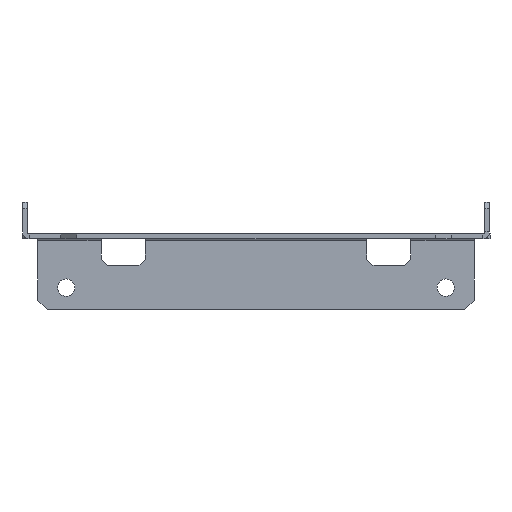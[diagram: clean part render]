
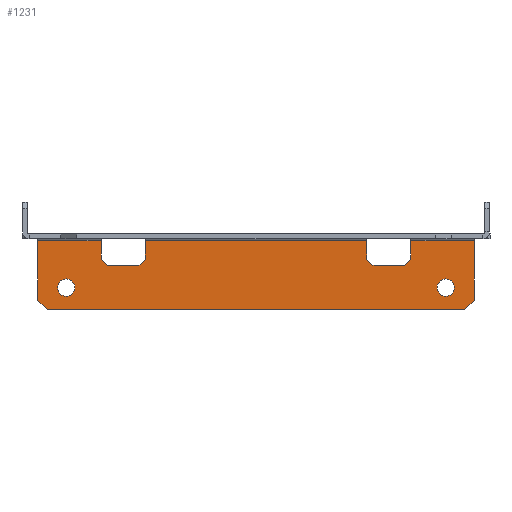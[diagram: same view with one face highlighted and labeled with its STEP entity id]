
A CAD part, front view. The second image highlights one B-rep face of the part: STEP entity #1231.
In plain terms, the highlighted planar face has unit normal (0, -1, 0).
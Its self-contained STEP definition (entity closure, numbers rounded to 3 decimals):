
#261=CARTESIAN_POINT(' ',(60.,37.,-17.));
#266=DIRECTION(' ',(0.,-1.,0.));
#271=DIRECTION(' ',(0.,0.,1.));
#276=AXIS2_PLACEMENT_3D(' ',#261,#266,#271);
#281=CIRCLE('',#276,2.75);
#286=CARTESIAN_POINT(' ',(60.,37.,-14.25));
#287=VERTEX_POINT(' ',#286);
#291=CARTESIAN_POINT(' ',(60.,37.,-19.75));
#292=VERTEX_POINT(' ',#291);
#296=EDGE_CURVE(' ',#287,#292,#281,.T.);
#426=DIRECTION(' ',(0.,-1.,0.));
#431=CARTESIAN_POINT(' ',(-69.,37.,-2.1));
#436=DIRECTION(' ',(0.,0.,-1.));
#441=AXIS2_PLACEMENT_3D(' ',#431,#426,#436);
#446=PLANE('NONE',#441);
#451=CARTESIAN_POINT(' ',(49.,37.,-2.1));
#456=DIRECTION(' ',(0.,0.,-1.));
#461=VECTOR(' ',#456,1.);
#466=LINE('',#451,#461);
#471=CARTESIAN_POINT(' ',(49.,37.,-2.1));
#472=VERTEX_POINT(' ',#471);
#476=CARTESIAN_POINT(' ',(49.,37.,-8.));
#477=VERTEX_POINT(' ',#476);
#481=EDGE_CURVE(' ',#472,#477,#466,.T.);
#486=ORIENTED_EDGE(' ',*,*,#481,.T.);
#491=CARTESIAN_POINT(' ',(49.,37.,-8.));
#496=DIRECTION(' ',(-0.707,0.,-0.707));
#501=VECTOR(' ',#496,1.);
#506=LINE('',#491,#501);
#511=CARTESIAN_POINT(' ',(47.,37.,-10.));
#512=VERTEX_POINT(' ',#511);
#516=EDGE_CURVE(' ',#477,#512,#506,.T.);
#521=ORIENTED_EDGE(' ',*,*,#516,.T.);
#526=CARTESIAN_POINT(' ',(47.,37.,-10.));
#531=DIRECTION(' ',(-1.,0.,0.));
#536=VECTOR(' ',#531,1.);
#541=LINE('',#526,#536);
#546=CARTESIAN_POINT(' ',(37.,37.,-10.));
#547=VERTEX_POINT(' ',#546);
#551=EDGE_CURVE(' ',#512,#547,#541,.T.);
#556=ORIENTED_EDGE(' ',*,*,#551,.T.);
#561=CARTESIAN_POINT(' ',(37.,37.,-10.));
#566=DIRECTION(' ',(-0.707,0.,0.707));
#571=VECTOR(' ',#566,1.);
#576=LINE('',#561,#571);
#581=CARTESIAN_POINT(' ',(35.,37.,-8.));
#582=VERTEX_POINT(' ',#581);
#586=EDGE_CURVE(' ',#547,#582,#576,.T.);
#591=ORIENTED_EDGE(' ',*,*,#586,.T.);
#596=CARTESIAN_POINT(' ',(35.,37.,-8.));
#601=DIRECTION(' ',(0.,0.,1.));
#606=VECTOR(' ',#601,1.);
#611=LINE('',#596,#606);
#616=CARTESIAN_POINT(' ',(35.,37.,-2.1));
#617=VERTEX_POINT(' ',#616);
#621=EDGE_CURVE(' ',#582,#617,#611,.T.);
#626=ORIENTED_EDGE(' ',*,*,#621,.T.);
#631=CARTESIAN_POINT(' ',(-35.,37.,-2.1));
#636=DIRECTION(' ',(1.,0.,0.));
#641=VECTOR(' ',#636,1.);
#646=LINE('',#631,#641);
#651=CARTESIAN_POINT(' ',(-35.,37.,-2.1));
#652=VERTEX_POINT(' ',#651);
#656=EDGE_CURVE(' ',#652,#617,#646,.T.);
#661=ORIENTED_EDGE(' ',*,*,#656,.F.);
#666=CARTESIAN_POINT(' ',(-35.,37.,-2.1));
#671=DIRECTION(' ',(0.,0.,-1.));
#676=VECTOR(' ',#671,1.);
#681=LINE('',#666,#676);
#686=CARTESIAN_POINT(' ',(-35.,37.,-8.));
#687=VERTEX_POINT(' ',#686);
#691=EDGE_CURVE(' ',#652,#687,#681,.T.);
#696=ORIENTED_EDGE(' ',*,*,#691,.T.);
#701=CARTESIAN_POINT(' ',(-35.,37.,-8.));
#706=DIRECTION(' ',(-0.707,0.,-0.707));
#711=VECTOR(' ',#706,1.);
#716=LINE('',#701,#711);
#721=CARTESIAN_POINT(' ',(-37.,37.,-10.));
#722=VERTEX_POINT(' ',#721);
#726=EDGE_CURVE(' ',#687,#722,#716,.T.);
#731=ORIENTED_EDGE(' ',*,*,#726,.T.);
#736=CARTESIAN_POINT(' ',(-37.,37.,-10.));
#741=DIRECTION(' ',(-1.,0.,0.));
#746=VECTOR(' ',#741,1.);
#751=LINE('',#736,#746);
#756=CARTESIAN_POINT(' ',(-47.,37.,-10.));
#757=VERTEX_POINT(' ',#756);
#761=EDGE_CURVE(' ',#722,#757,#751,.T.);
#766=ORIENTED_EDGE(' ',*,*,#761,.T.);
#771=CARTESIAN_POINT(' ',(-47.,37.,-10.));
#776=DIRECTION(' ',(-0.707,0.,0.707));
#781=VECTOR(' ',#776,1.);
#786=LINE('',#771,#781);
#791=CARTESIAN_POINT(' ',(-49.,37.,-8.));
#792=VERTEX_POINT(' ',#791);
#796=EDGE_CURVE(' ',#757,#792,#786,.T.);
#801=ORIENTED_EDGE(' ',*,*,#796,.T.);
#806=CARTESIAN_POINT(' ',(-49.,37.,-8.));
#811=DIRECTION(' ',(0.,0.,1.));
#816=VECTOR(' ',#811,1.);
#821=LINE('',#806,#816);
#826=CARTESIAN_POINT(' ',(-49.,37.,-2.1));
#827=VERTEX_POINT(' ',#826);
#831=EDGE_CURVE(' ',#792,#827,#821,.T.);
#836=ORIENTED_EDGE(' ',*,*,#831,.T.);
#841=CARTESIAN_POINT(' ',(-69.,37.,-2.1));
#846=DIRECTION(' ',(1.,0.,0.));
#851=VECTOR(' ',#846,1.);
#856=LINE('',#841,#851);
#861=CARTESIAN_POINT(' ',(-69.,37.,-2.1));
#862=VERTEX_POINT(' ',#861);
#866=EDGE_CURVE(' ',#862,#827,#856,.T.);
#871=ORIENTED_EDGE(' ',*,*,#866,.F.);
#876=CARTESIAN_POINT(' ',(-69.,37.,-21.));
#881=DIRECTION(' ',(0.,0.,1.));
#886=VECTOR(' ',#881,1.);
#891=LINE('',#876,#886);
#896=CARTESIAN_POINT(' ',(-69.,37.,-21.));
#897=VERTEX_POINT(' ',#896);
#901=EDGE_CURVE(' ',#897,#862,#891,.T.);
#906=ORIENTED_EDGE(' ',*,*,#901,.F.);
#911=CARTESIAN_POINT(' ',(-69.,37.,-21.));
#916=DIRECTION(' ',(0.707,0.,-0.707));
#921=VECTOR(' ',#916,1.);
#926=LINE('',#911,#921);
#931=CARTESIAN_POINT(' ',(-66.,37.,-24.));
#932=VERTEX_POINT(' ',#931);
#936=EDGE_CURVE(' ',#897,#932,#926,.T.);
#941=ORIENTED_EDGE(' ',*,*,#936,.T.);
#946=CARTESIAN_POINT(' ',(66.,37.,-24.));
#951=DIRECTION(' ',(-1.,0.,0.));
#956=VECTOR(' ',#951,1.);
#961=LINE('',#946,#956);
#966=CARTESIAN_POINT(' ',(66.,37.,-24.));
#967=VERTEX_POINT(' ',#966);
#971=EDGE_CURVE(' ',#967,#932,#961,.T.);
#976=ORIENTED_EDGE(' ',*,*,#971,.F.);
#981=CARTESIAN_POINT(' ',(66.,37.,-24.));
#986=DIRECTION(' ',(0.707,0.,0.707));
#991=VECTOR(' ',#986,1.);
#996=LINE('',#981,#991);
#1001=CARTESIAN_POINT(' ',(69.,37.,-21.));
#1002=VERTEX_POINT(' ',#1001);
#1006=EDGE_CURVE(' ',#967,#1002,#996,.T.);
#1011=ORIENTED_EDGE(' ',*,*,#1006,.T.);
#1016=CARTESIAN_POINT(' ',(69.,37.,-2.1));
#1021=DIRECTION(' ',(0.,0.,-1.));
#1026=VECTOR(' ',#1021,1.);
#1031=LINE('',#1016,#1026);
#1036=CARTESIAN_POINT(' ',(69.,37.,-2.1));
#1037=VERTEX_POINT(' ',#1036);
#1041=EDGE_CURVE(' ',#1037,#1002,#1031,.T.);
#1046=ORIENTED_EDGE(' ',*,*,#1041,.F.);
#1051=CARTESIAN_POINT(' ',(49.,37.,-2.1));
#1056=DIRECTION(' ',(1.,0.,0.));
#1061=VECTOR(' ',#1056,1.);
#1066=LINE('',#1051,#1061);
#1071=EDGE_CURVE(' ',#472,#1037,#1066,.T.);
#1076=ORIENTED_EDGE(' ',*,*,#1071,.F.);
#1081=EDGE_LOOP(' ',(#486,#521,#556,#591,#626,#661,#696,#731,#766,#801,#836,#871,#906,#941,#976,#1011,#1046,#1076));
#1086=FACE_OUTER_BOUND(' ',#1081,.T.);
#1091=ORIENTED_EDGE(' ',*,*,#296,.F.);
#1096=CARTESIAN_POINT(' ',(60.,37.,-17.));
#1101=DIRECTION(' ',(0.,-1.,0.));
#1106=DIRECTION(' ',(0.,0.,-1.));
#1111=AXIS2_PLACEMENT_3D(' ',#1096,#1101,#1106);
#1116=CIRCLE('',#1111,2.75);
#1121=EDGE_CURVE(' ',#292,#287,#1116,.T.);
#1126=ORIENTED_EDGE(' ',*,*,#1121,.F.);
#1131=EDGE_LOOP(' ',(#1091,#1126));
#1136=FACE_BOUND(' ',#1131,.T.);
#1141=CARTESIAN_POINT(' ',(-60.,37.,-17.));
#1146=DIRECTION(' ',(0.,-1.,0.));
#1151=DIRECTION(' ',(0.,0.,1.));
#1156=AXIS2_PLACEMENT_3D(' ',#1141,#1146,#1151);
#1161=CIRCLE('',#1156,2.75);
#1166=CARTESIAN_POINT(' ',(-60.,37.,-14.25));
#1167=VERTEX_POINT(' ',#1166);
#1171=CARTESIAN_POINT(' ',(-60.,37.,-19.75));
#1172=VERTEX_POINT(' ',#1171);
#1176=EDGE_CURVE(' ',#1167,#1172,#1161,.T.);
#1181=ORIENTED_EDGE(' ',*,*,#1176,.F.);
#1186=CARTESIAN_POINT(' ',(-60.,37.,-17.));
#1191=DIRECTION(' ',(0.,-1.,0.));
#1196=DIRECTION(' ',(0.,0.,-1.));
#1201=AXIS2_PLACEMENT_3D(' ',#1186,#1191,#1196);
#1206=CIRCLE('',#1201,2.75);
#1211=EDGE_CURVE(' ',#1172,#1167,#1206,.T.);
#1216=ORIENTED_EDGE(' ',*,*,#1211,.F.);
#1221=EDGE_LOOP(' ',(#1181,#1216));
#1226=FACE_BOUND(' ',#1221,.T.);
#1231=ADVANCED_FACE('NONE',(#1086,#1136,#1226),#446,.T.);
